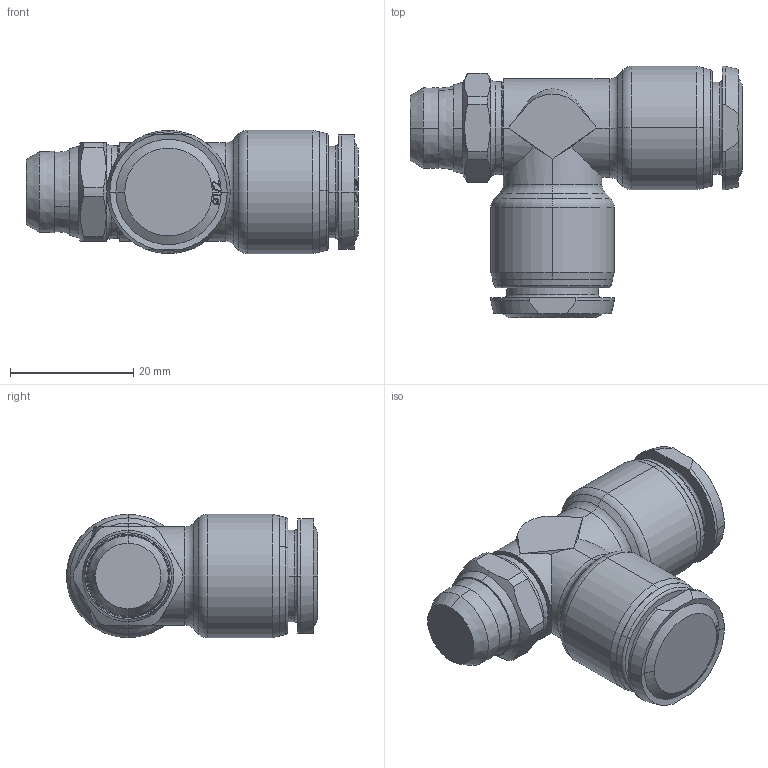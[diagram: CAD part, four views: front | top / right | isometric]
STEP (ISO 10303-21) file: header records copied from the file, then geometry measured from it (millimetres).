
FILE_DESCRIPTION (( 'STEP AP203' ), '1' );
FILE_NAME ('8522300014A.step', '2012-11-05T15:43:55', ( '' ), ( '' ), 'SwSTEP 2.0', 'SolidWorks 2012', '' );
FILE_SCHEMA (( 'CONFIG_CONTROL_DESIGN' ));
Length unit declared in the file: millimetre
Products named in the file (1): 8522300014A
Bounding box: 53.8 x 40.7 x 20 mm (x, y, z)
Volume: 18781.6 mm3; surface area: 5461.1 mm2
Topology: 1 solids, 1 shells, 225 faces, 542 edges, 341 vertices
Faces by surface type: bspline 84, cone 60, plane 33, cylinder 28, torus 20
Entity records: 9826 total; most frequent: CARTESIAN_POINT 5248, ORIENTED_EDGE 1084, DIRECTION 676, EDGE_CURVE 542, VERTEX_POINT 341, AXIS2_PLACEMENT_3D 293, B_SPLINE_CURVE_WITH_KNOTS 286, EDGE_LOOP 247
